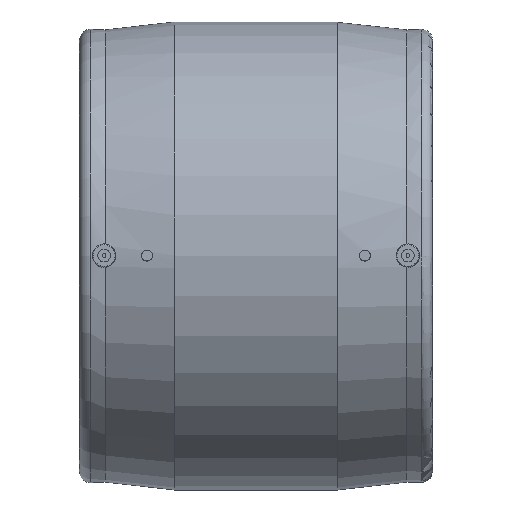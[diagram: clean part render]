
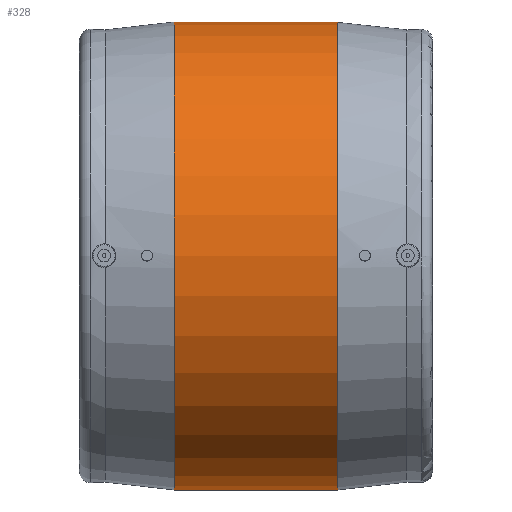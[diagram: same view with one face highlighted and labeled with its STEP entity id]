
A CAD part, top view. The second image highlights one B-rep face of the part: STEP entity #328.
In plain terms, the highlighted cylindrical face has radius 256.5 mm (diameter 513 mm), a full revolution.
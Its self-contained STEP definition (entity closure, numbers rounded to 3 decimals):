
#36=CYLINDRICAL_SURFACE('',#377,256.5);
#50=CIRCLE('',#378,256.5);
#51=CIRCLE('',#379,256.5);
#84=ORIENTED_EDGE('',*,*,#146,.T.);
#85=ORIENTED_EDGE('',*,*,#147,.T.);
#146=EDGE_CURVE('',#176,#176,#50,.F.);
#147=EDGE_CURVE('',#177,#177,#51,.T.);
#176=VERTEX_POINT('',#630);
#177=VERTEX_POINT('',#632);
#212=EDGE_LOOP('',(#84));
#213=EDGE_LOOP('',(#85));
#270=FACE_BOUND('',#212,.T.);
#271=FACE_BOUND('',#213,.T.);
#328=ADVANCED_FACE('',(#270,#271),#36,.T.);
#377=AXIS2_PLACEMENT_3D('',#628,#445,#446);
#378=AXIS2_PLACEMENT_3D('',#629,#447,#448);
#379=AXIS2_PLACEMENT_3D('',#631,#449,#450);
#445=DIRECTION('',(-1.,0.,0.));
#446=DIRECTION('',(0.,0.,1.));
#447=DIRECTION('',(1.,0.,0.));
#448=DIRECTION('',(0.,0.,-1.));
#449=DIRECTION('',(1.,0.,0.));
#450=DIRECTION('',(0.,0.,-1.));
#628=CARTESIAN_POINT('',(-60.,0.,0.));
#629=CARTESIAN_POINT('',(89.389,0.,0.));
#630=CARTESIAN_POINT('',(89.389,0.,-256.5));
#631=CARTESIAN_POINT('',(-89.389,0.,0.));
#632=CARTESIAN_POINT('',(-89.389,0.,-256.5));
